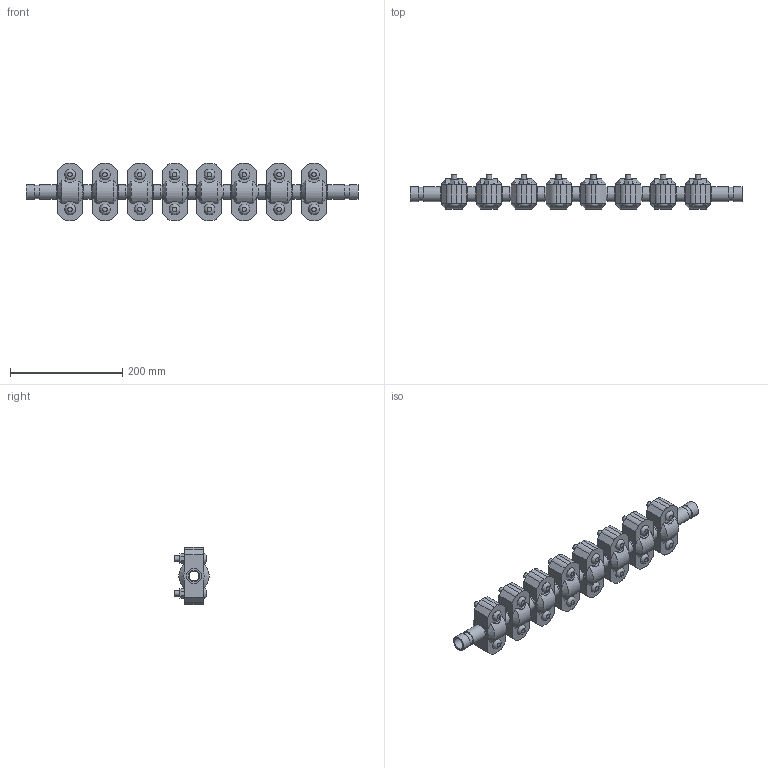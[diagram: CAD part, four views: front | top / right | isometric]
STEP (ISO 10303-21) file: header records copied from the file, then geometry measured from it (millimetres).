
FILE_DESCRIPTION(/* description */ ('VIC EXPANSION JOINT 8 COUPLINGS EXPANDED STYLE 155 (OGS)','CAx-IF Rec.Pracs.---Representation and Presentation of Product Manufacturing Information (PMI)---4.0---2014-10-13'),/* implementation_level */ '2;1');
FILE_NAME(/* name */ 'C:\Users\kkamble\AppData\Roaming\Autodesk\ApplicationPlugins\Victaulic.Temp\A413\Victaulic_IPS_Expansion Joint_Expanded_8 Couplings_Style 155 (OGS)_0.75 (20).stp',/* time_stamp */ '2021-06-27T00:08:27+02:00',/* author */ ('kkamble'),/* organization */ ('Victaulic'),/* preprocessor_version */ 'ST-DEVELOPER v17.2',/* originating_system */ 'Autodesk Inventor 2019',/* authorisation */ '');
FILE_SCHEMA (('AP242_MANAGED_MODEL_BASED_3D_ENGINEERING_MIM_LF { 1 0 10303 442 1 1 4 }'));
Length unit declared in the file: inch
Products named in the file (4): 155-0.75; Nipple-0.75; Nipple-0.75_1; 077-0.75
Assembly tree (17 placements, depth 2):
  155-0.75
    Nipple-0.75  x2
    Nipple-0.75_1  x7
    077-0.75  x8
Bounding box: 590.55 x 61.1 x 101.6 mm (x, y, z)
Volume: 1238359.1 mm3; surface area: 314817.6 mm2
Topology: 17 solids, 33 shells, 596 faces, 1430 edges, 1000 vertices
Faces by surface type: plane 342, cylinder 206, cone 32, bspline 16
Full cylindrical faces by diameter (mm): 9.525 x32, 11.43 x16, 17.78 x8, 20.93 x9, 23.825 x18, 26.67 x43
Entity records: 3049 total; most frequent: CARTESIAN_POINT 593, DIRECTION 497, ORIENTED_EDGE 410, EDGE_CURVE 205, AXIS2_PLACEMENT_3D 200, VERTEX_POINT 146, EDGE_LOOP 111, LINE 97
